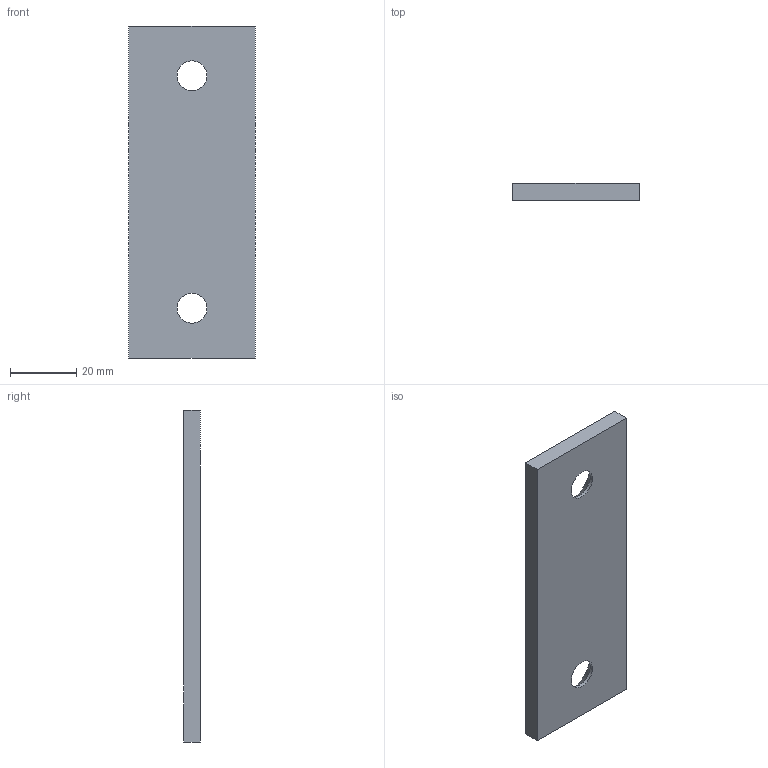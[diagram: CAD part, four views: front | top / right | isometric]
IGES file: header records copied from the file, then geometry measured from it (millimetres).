
Start section: Data from Parasolid IGES Translator 20.0.26, Copyright(c) 2006 Siemens P LM Software. All Rights Reserved.
Global section: file name: P605-01-038-100.igs; native system: By Siemens PLM Incorporated; preprocessor: XPlus GENERIC/IGES 20.0.26; author: Noname; organization: Noname; date: 20190705.145819; units: millimetre
Bounding box: 38 x 5 x 100 mm (x, y, z)
Surface area: 8917.4 mm2 (no closed solid volume)
Topology: 0 solids, 0 shells, 10 faces, 44 edges, 41 vertices
Faces by surface type: extrusion 6, revolution 4
